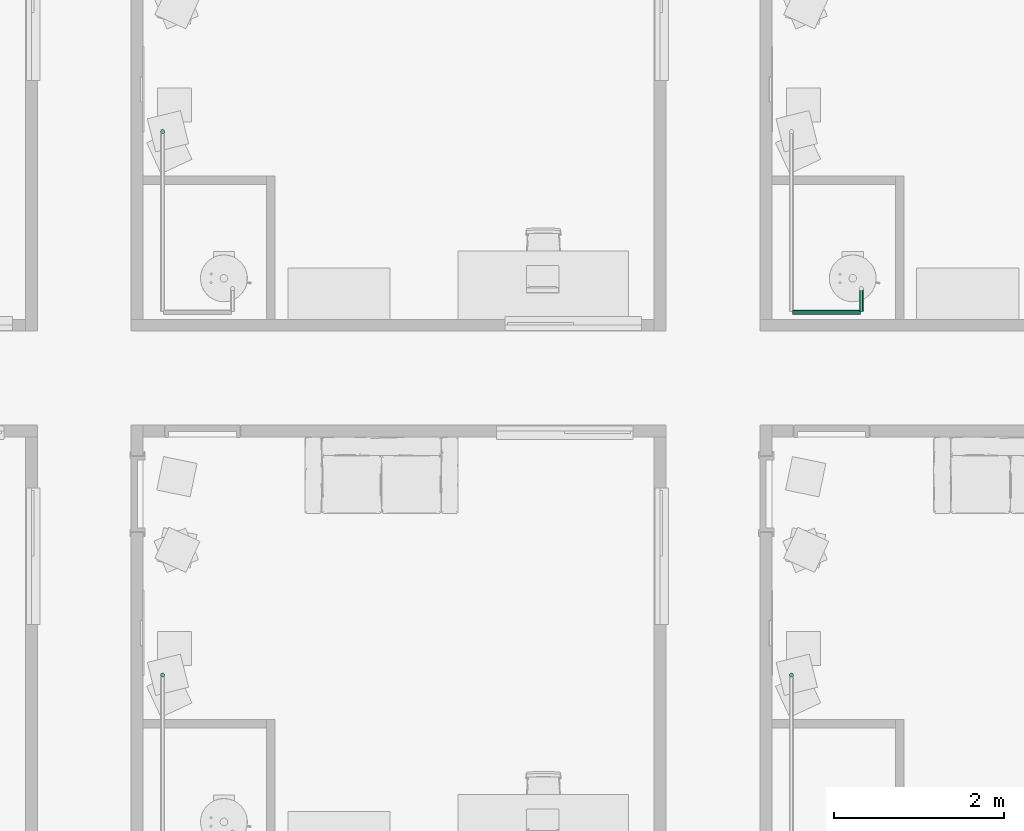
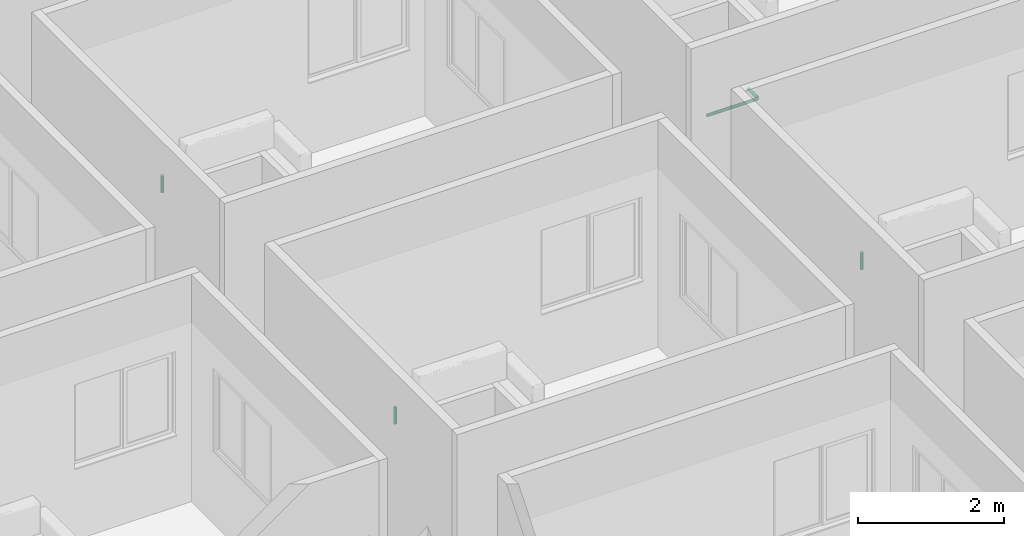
# One storey, part 44 of 71: 5 pipe segments.
"""IFC4 building model written with IfcOpenShell, lengths in centimetres."""

from ifc_helpers import new_model, entity, si_unit, converted_unit, derived_unit, direction, frame, origin, place, context, subcontext, project, spatial, arc, indexed_curve, outline, extrude, type_object, element, save


model = new_model("IFC4")

# Units and contexts
model_context = context("Model", 3, precision=0.001, world=origin(), true_north=direction((6.123233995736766e-17, 1.0)))
body_context = subcontext(model_context, "Body", "Model", "MODEL_VIEW")
ifc_project = project(units=[si_unit("LENGTHUNIT", "METRE", prefix="CENTI"), si_unit("AREAUNIT", "SQUARE_METRE"), si_unit("VOLUMEUNIT", "CUBIC_METRE"), derived_unit("THERMALTRANSMITTANCEUNIT", [(si_unit("MASSUNIT", "GRAM", prefix="KILO"), 1), (si_unit("THERMODYNAMICTEMPERATUREUNIT", "KELVIN"), -1), (si_unit("TIMEUNIT", "SECOND"), -3)]), converted_unit("PLANEANGLEUNIT", "DEGREE", entity("IfcPlaneAngleMeasure", 0.017453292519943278), si_unit("PLANEANGLEUNIT", "RADIAN"), dimensions=[0, 0, 0, 0, 0, 0, 0]), derived_unit("MASSDENSITYUNIT", [(si_unit("MASSUNIT", "GRAM", prefix="KILO"), 1), (si_unit("LENGTHUNIT", "METRE"), -3)]), derived_unit("VAPORPERMEABILITYUNIT", [(si_unit("LENGTHUNIT", "METRE"), -1), (si_unit("TIMEUNIT", "SECOND"), 1)]), derived_unit("USERDEFINED", [(si_unit("MASSUNIT", "GRAM", prefix="KILO"), 1), (si_unit("TIMEUNIT", "SECOND"), -3), (si_unit("LENGTHUNIT", "METRE"), 3), (si_unit("ELECTRICCURRENTUNIT", "AMPERE"), -2)]), derived_unit("SPECIFICHEATCAPACITYUNIT", [(si_unit("THERMODYNAMICTEMPERATUREUNIT", "KELVIN"), -1), (si_unit("LENGTHUNIT", "METRE"), 2), (si_unit("TIMEUNIT", "SECOND"), -2)]), derived_unit("THERMALCONDUCTANCEUNIT", [(si_unit("MASSUNIT", "GRAM", prefix="KILO"), 1), (si_unit("THERMODYNAMICTEMPERATUREUNIT", "KELVIN"), -1), (si_unit("TIMEUNIT", "SECOND"), -3), (si_unit("LENGTHUNIT", "METRE"), 1)]), si_unit("PRESSUREUNIT", "PASCAL"), derived_unit("MODULUSOFELASTICITYUNIT", [(si_unit("MASSUNIT", "GRAM", prefix="KILO"), 1), (si_unit("LENGTHUNIT", "METRE"), -1), (si_unit("TIMEUNIT", "SECOND"), -2)]), derived_unit("THERMALEXPANSIONCOEFFICIENTUNIT", [(si_unit("THERMODYNAMICTEMPERATUREUNIT", "KELVIN"), -1)])], contexts=[model_context])

# Site, building, storey
site_placement = place(None, origin())
site = spatial("IfcSite", under=ifc_project, at=site_placement, Name="Default", CompositionType="ELEMENT")
building_placement = place(site_placement, origin())
building = spatial("IfcBuilding", under=site, at=building_placement, Name="IDS Escape Game Building", CompositionType="ELEMENT")
storey_placement = place(building_placement, frame((0.0, 0.0, 1200.0)))
storey = spatial("IfcBuildingStorey", under=building, at=storey_placement, Name="03_Third Floor", CompositionType="ELEMENT", Elevation=1200.0)

# Pipe segments
pipe_segment_type = type_object("IfcPipeSegmentType", Name="Pipe Types:Piping Aluminum", PredefinedType="NOTDEFINED")
pipe_segment_1_placement = place(storey_placement, origin())
element("IfcPipeSegment", 1, at=pipe_segment_1_placement, inside=storey, type_object=pipe_segment_type, Name="Pipe Types:Piping Aluminum", ObjectType="Pipe Types:Piping Aluminum", PredefinedType="NOTDEFINED", context=body_context, shape_type="SweptSolid", body=[
    extrude(outline(indexed_curve([(2.412999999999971, 0.0), (1.7062486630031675, 1.7062486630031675), (0.0, 2.412999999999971), (-1.7062486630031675, 1.7062486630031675), (-2.412999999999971, 0.0), (-1.7062486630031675, -1.7062486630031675), (0.0, -2.412999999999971), (1.7062486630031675, -1.7062486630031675)], segments=[arc(1, 2, 3), arc(3, 4, 5), arc(5, 6, 7), arc(7, 8, 1)], self_intersect=False)), frame((1506.0467168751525, 871.2648279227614, 244.09999999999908), z_axis=(0.0, 0.0, 1.0), x_axis=(-1.0, 0.0, 0.0)), (0.0, 0.0, 1.0), 27.90000000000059),
])
pipe_segment_2_placement = place(storey_placement, origin())
element("IfcPipeSegment", 2, at=pipe_segment_2_placement, inside=storey, type_object=pipe_segment_type, Name="Pipe Types:Piping Aluminum", ObjectType="Pipe Types:Piping Aluminum", PredefinedType="NOTDEFINED", context=body_context, shape_type="SweptSolid", body=[
    extrude(outline(indexed_curve([(2.412999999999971, 0.0), (1.7062486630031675, 1.7062486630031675), (0.0, 2.412999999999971), (-1.7062486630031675, 1.7062486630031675), (-2.412999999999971, 0.0), (-1.7062486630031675, -1.7062486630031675), (0.0, -2.412999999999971), (1.7062486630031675, -1.7062486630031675)], segments=[arc(1, 2, 3), arc(3, 4, 5), arc(5, 6, 7), arc(7, 8, 1)], self_intersect=False)), frame((2244.046716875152, 871.2648279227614, 244.09999999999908), z_axis=(0.0, 0.0, 1.0), x_axis=(-1.0, 0.0, 0.0)), (0.0, 0.0, 1.0), 27.90000000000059),
])
pipe_segment_3_placement = place(storey_placement, origin())
element("IfcPipeSegment", 3, at=pipe_segment_3_placement, inside=storey, type_object=pipe_segment_type, Name="Pipe Types:Piping Aluminum", ObjectType="Pipe Types:Piping Aluminum", PredefinedType="NOTDEFINED", context=body_context, shape_type="SweptSolid", body=[
    extrude(outline(indexed_curve([(2.412999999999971, 0.0), (1.7062486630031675, 1.7062486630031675), (0.0, 2.412999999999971), (-1.7062486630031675, 1.7062486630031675), (-2.412999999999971, 0.0), (-1.7062486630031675, -1.7062486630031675), (0.0, -2.412999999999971), (1.7062486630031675, -1.7062486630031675)], segments=[arc(1, 2, 3), arc(3, 4, 5), arc(5, 6, 7), arc(7, 8, 1)], self_intersect=False)), frame((1506.0467168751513, 1509.2648279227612, 244.09999999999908), z_axis=(0.0, 0.0, 1.0), x_axis=(-1.0, 0.0, 0.0)), (0.0, 0.0, 1.0), 27.90000000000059),
])
pipe_segment_4_placement = place(storey_placement, origin())
element("IfcPipeSegment", 4, at=pipe_segment_4_placement, inside=storey, type_object=pipe_segment_type, Name="Pipe Types:Piping Aluminum", ObjectType="Pipe Types:Piping Aluminum", PredefinedType="NOTDEFINED", context=body_context, shape_type="SweptSolid", body=[
    extrude(outline(indexed_curve([(2.412999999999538, -2.165734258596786e-13), (1.7062486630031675, 1.7062486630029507), (4.331468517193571e-13, 2.4130000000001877), (-1.706248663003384, 1.7062486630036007), (-2.4130000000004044, -2.165734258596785e-13), (-1.7062486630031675, -1.706248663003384), (4.3314685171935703e-13, -2.4129999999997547), (1.7062486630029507, -1.7062486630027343)], segments=[arc(1, 2, 3), arc(3, 4, 5), arc(5, 6, 7), arc(7, 8, 1)], self_intersect=False)), frame((2245.1467168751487, 1297.2648279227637, 242.0), z_axis=(1.0, 0.0, 0.0), x_axis=(0.0, 1.0, 0.0)), (0.0, 0.0, 1.0), 79.90328312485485),
])
pipe_segment_5_placement = place(storey_placement, origin())
element("IfcPipeSegment", 5, at=pipe_segment_5_placement, inside=storey, type_object=pipe_segment_type, Name="Pipe Types:Piping Aluminum", ObjectType="Pipe Types:Piping Aluminum", PredefinedType="NOTDEFINED", context=body_context, shape_type="SweptSolid", body=[
    extrude(outline(indexed_curve([(2.4129999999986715, 0.0), (1.7062486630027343, 1.7062486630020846), (1.7325874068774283e-12, 2.412999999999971), (-1.7062486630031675, 1.7062486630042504), (-2.413000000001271, 0.0), (-1.7062486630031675, -1.7062486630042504), (1.7325874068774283e-12, -2.412999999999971), (1.7062486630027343, -1.7062486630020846)], segments=[arc(1, 2, 3), arc(3, 4, 5), arc(5, 6, 7), arc(7, 8, 1)], self_intersect=False)), frame((2326.1500000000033, 1298.3648279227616, 242.0), z_axis=(0.0, 1.0, 0.0), x_axis=(-1.0, 0.0, 0.0)), (0.0, 0.0, 1.0), 25.43517207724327),
])

save(model, "model.ifc")
